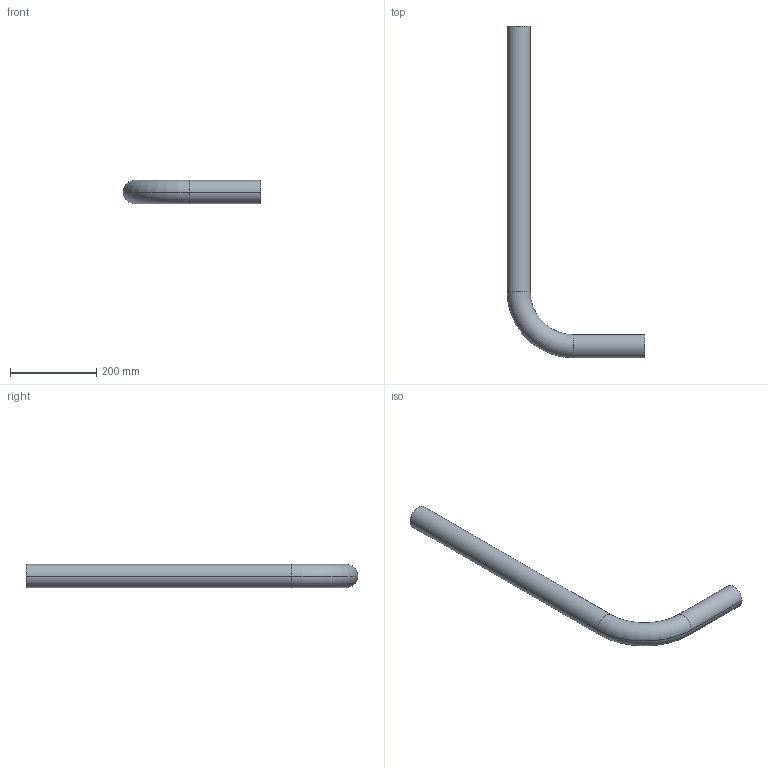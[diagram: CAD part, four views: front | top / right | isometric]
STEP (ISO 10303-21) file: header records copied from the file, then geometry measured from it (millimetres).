
FILE_DESCRIPTION (( 'STEP AP203' ), '1' );
FILE_NAME ('KP_3-54FCL.step', '2011-08-08T11:37:40', ( '' ), ( '' ), 'SwSTEP 2.0', 'SolidWorks 2011', '' );
FILE_SCHEMA (( 'CONFIG_CONTROL_DESIGN' ));
Length unit declared in the file: millimetre
Products named in the file (1): KP_3-54FCL
Bounding box: 320 x 770 x 54 mm (x, y, z)
Volume: 952013.7 mm3; surface area: 294867.2 mm2
Topology: 1 solids, 1 shells, 14 faces, 28 edges, 16 vertices
Faces by surface type: cylinder 8, torus 4, plane 2
Entity records: 449 total; most frequent: DIRECTION 78, CARTESIAN_POINT 59, ORIENTED_EDGE 56, AXIS2_PLACEMENT_3D 35, EDGE_CURVE 28, CIRCLE 20, VERTEX_POINT 16, EDGE_LOOP 16
